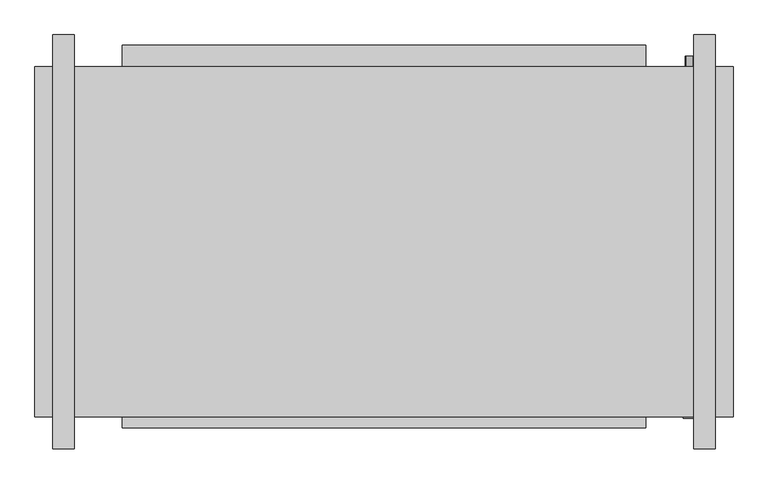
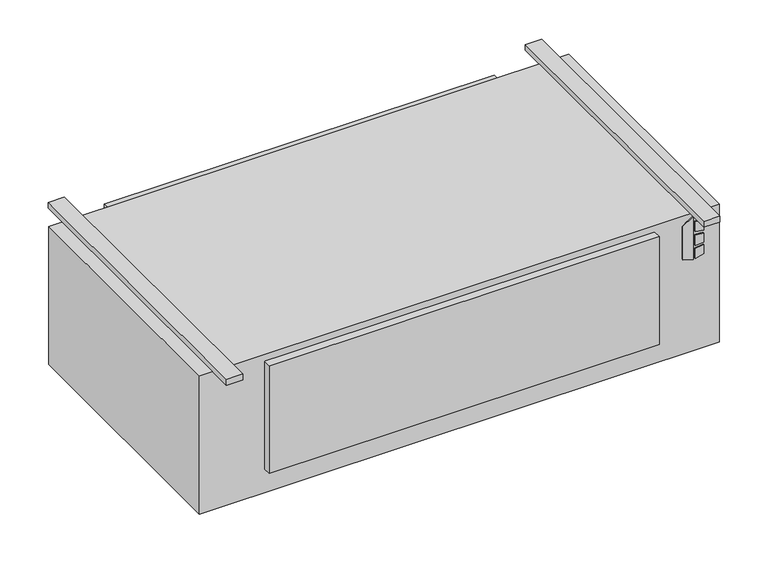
"""IFC4 building model written with IfcOpenShell, lengths in millimetres: proxy geometry, Concealed_High_Capacity_Horizontal_Cabinet_Fan_Coil_Unit_-_HXY_-_IEC_-_2-Pipe_Cool-EHeat_RH_2022 : Size 20 - 277v/60Hz/1Ph - 6 Row 14.0kW."""

from ifc_helpers import new_model, si_unit, point, frame, frame_2d, origin, origin_with_axes, place, context, project, spatial, polyline, circle_curve, trimmed, segment, composite_curve, outline, extrude, source, transform, mapped, element, save


def mechanical_equipment_be7d65b0(model_context):
    return source(origin(), model_context, "Body", "SweptSolid", [
        extrude(outline(polyline([(-142.4519297, 849.3868862), (-152.4, 881.5602728), (-10.2290756, 881.5602728), (-33.2510817, 849.3868862), (-142.4519297, 849.3868862)])), frame((0.0, -649.2875, 0.0), z_axis=(0.0, 1.0, 0.0), x_axis=(0.0, 0.0, 1.0)), (0.0, 0.0, 1.0), 3.175),
        extrude(outline(polyline([(-63.4526443, 888.3186058), (-66.6550368, 914.4), (-37.4261958, 914.4), (-29.3617807, 888.3186058), (-63.4526443, 888.3186058)])), frame((0.0, -649.2875, 0.0), z_axis=(0.0, 1.0, 0.0), x_axis=(0.0, 0.0, 1.0)), (0.0, 0.0, 1.0), 3.175),
        extrude(outline(polyline([(-115.3161712, 914.4), (-118.9816721, 888.3186058), (-152.4, 888.3186058), (-143.7657628, 914.4), (-115.3161712, 914.4)])), frame((0.0, -649.2875, 0.0), z_axis=(0.0, 1.0, 0.0), x_axis=(0.0, 0.0, 1.0)), (0.0, 0.0, 1.0), 3.175),
        extrude(outline(polyline([(-76.0010097, 914.4), (-73.7191834, 888.3186058), (-109.6567319, 888.3186058), (-106.9154669, 914.4), (-76.0010097, 914.4)])), frame((0.0, -649.2875, 0.0), z_axis=(0.0, 1.0, 0.0), x_axis=(0.0, 0.0, 1.0)), (0.0, 0.0, 1.0), 3.175),
        extrude(outline(composite_curve([segment(trimmed(circle_curve(frame_2d((-406.4, 863.6)), 9.525), [point((-406.4, 854.075))], [point((-406.4, 873.125))], False, "CARTESIAN"), True, "CONTINUOUS"), segment(trimmed(circle_curve(frame_2d((-406.4, 863.6)), 9.525), [point((-406.4, 873.125))], [point((-406.4, 854.075))], False, "CARTESIAN"), True, "CONTINUOUS")], self_intersect=False)), frame((0.0, 169.8625, 0.0), z_axis=(0.0, 1.0, 0.0), x_axis=(0.0, 0.0, 1.0)), (0.0, 0.0, 1.0), 25.4),
        extrude(outline(composite_curve([segment(trimmed(circle_curve(frame_2d((-330.2, 863.6)), 7.9375), [point((-330.2, 855.6625))], [point((-330.2, 871.5375))], False, "CARTESIAN"), True, "CONTINUOUS"), segment(trimmed(circle_curve(frame_2d((-330.2, 863.6)), 7.9375), [point((-330.2, 871.5375))], [point((-330.2, 855.6625))], False, "CARTESIAN"), True, "CONTINUOUS")], self_intersect=False)), frame((0.0, 169.8625, 0.0), z_axis=(0.0, 1.0, 0.0), x_axis=(0.0, 0.0, 1.0)), (0.0, 0.0, 1.0), 25.4),
        extrude(outline(composite_curve([segment(trimmed(circle_curve(frame_2d((-254.0, 863.6)), 7.9375), [point((-254.0, 855.6625))], [point((-254.0, 871.5375))], False, "CARTESIAN"), True, "CONTINUOUS"), segment(trimmed(circle_curve(frame_2d((-254.0, 863.6)), 7.9375), [point((-254.0, 871.5375))], [point((-254.0, 855.6625))], False, "CARTESIAN"), True, "CONTINUOUS")], self_intersect=False)), frame((0.0, 169.8625, 0.0), z_axis=(0.0, 1.0, 0.0), x_axis=(0.0, 0.0, 1.0)), (0.0, 0.0, 1.0), 25.4),
        extrude(outline(polyline([(965.2, 169.8625), (965.2, -646.1125), (-660.4, -646.1125), (-660.4, 169.8625), (965.2, 169.8625)])), frame((0.0, 0.0, -457.2), z_axis=(0.0, 0.0, 1.0), x_axis=(1.0, 0.0, 0.0)), (0.0, 0.0, 1.0), 457.2),
        extrude(outline(polyline([(-457.2, 220.6625), (762.0, 220.6625), (762.0, 169.8625), (-457.2, 169.8625), (-457.2, 220.6625)])), frame((0.0, 0.0, -377.825), z_axis=(0.0, 0.0, 1.0), x_axis=(1.0, 0.0, 0.0)), (0.0, 0.0, 1.0), 349.25),
        extrude(outline(polyline([(-568.325, 244.475), (-568.325, -720.725), (-619.125, -720.725), (-619.125, 244.475), (-568.325, 244.475)])), origin_with_axes(), (0.0, 0.0, 1.0), 19.05),
        extrude(outline(polyline([(923.925, 244.475), (923.925, -720.725), (873.125, -720.725), (873.125, 244.475), (923.925, 244.475)])), origin_with_axes(), (0.0, 0.0, 1.0), 19.05),
        extrude(outline(polyline([(762.0, -671.5125), (-457.2, -671.5125), (-457.2, -646.1125), (762.0, -646.1125), (762.0, -671.5125)])), frame((0.0, 0.0, -377.825), z_axis=(0.0, 0.0, 1.0), x_axis=(1.0, 0.0, 0.0)), (0.0, 0.0, 1.0), 355.6),
    ])


if __name__ == "__main__":
    model = new_model("IFC4")
    model_context = context("Model", 3, world=origin())
    ifc_project = project(units=[si_unit("LENGTHUNIT", "METRE", prefix="MILLI")], contexts=[model_context])
    site = spatial("IfcSite", under=ifc_project)
    building = spatial("IfcBuilding", under=site)
    placement = place(None, origin())
    mechanical_equipment_shape = mechanical_equipment_be7d65b0(model_context)
    element("IfcBuildingElementProxy", 1, Name="Concealed_High_Capacity_Horizontal_Cabinet_Fan_Coil_Unit_-_HXY_-_IEC_-_2-Pipe_Cool-EHeat_RH_2022 : Size 20 - 277v/60Hz/1Ph - 6 Row 14.0kW", ObjectType="Concealed_High_Capacity_Horizontal_Cabinet_Fan_Coil_Unit_-_HXY_-_IEC_-_2-Pipe_Cool-EHeat_RH_2022 : Size 20 - 277v/60Hz/1Ph - 6 Row 14.0kW", at=placement, inside=building, context=model_context, shape_type="MappedRepresentation", body=[
        mapped(mechanical_equipment_shape, transform((0.0, 0.0, 0.0), x_axis=(1.0, 0.0, 0.0), y_axis=(0.0, 1.0, 0.0), z_axis=(0.0, 0.0, 1.0))),
    ])
    save(model, "model.ifc")
